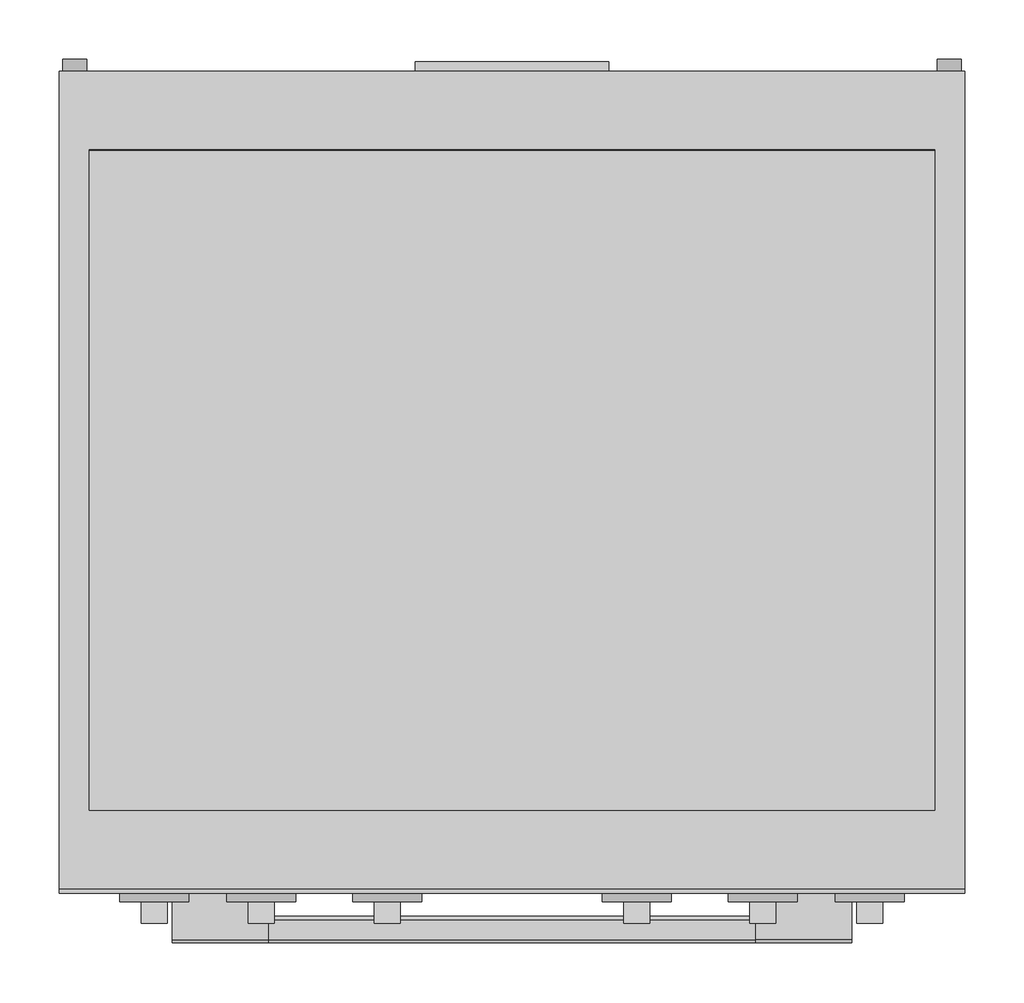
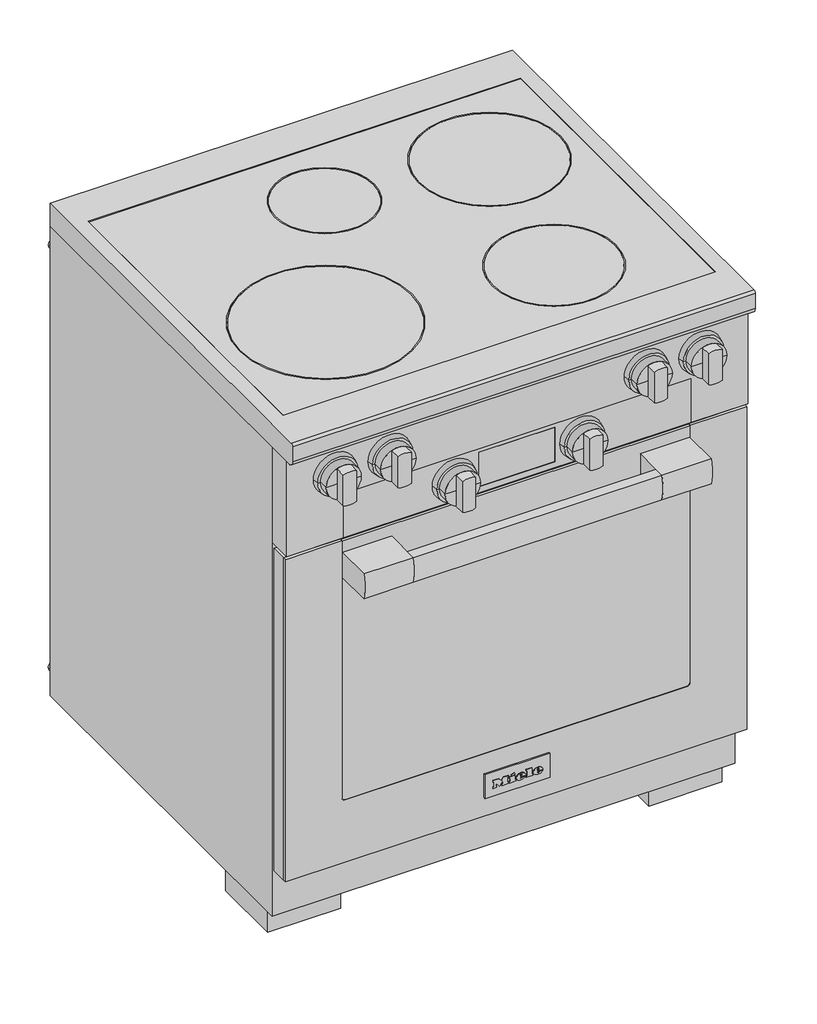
# Not in any storey: 1 proxy.
"""IFC4 building model written with IfcOpenShell, lengths in millimetres."""

from ifc_helpers import new_model, si_unit, origin, place, context, project, spatial, transform, mapped, element, save
from components import specialty_equipment_d15e6850, specialty_equipment_dd086f72

model = new_model("IFC4")

# Units and contexts
model_context = context("Model", 3, world=origin())
ifc_project = project(units=[si_unit("LENGTHUNIT", "METRE", prefix="MILLI")], contexts=[model_context])

# Site, building
site = spatial("IfcSite", under=ifc_project)
building = spatial("IfcBuilding", under=site)

# Proxy
placement = place(None, origin())
specialty_equipment_shape = specialty_equipment_d15e6850(model_context)
specialty_equipment_2_shape = specialty_equipment_dd086f72(model_context)
element("IfcBuildingElementProxy", 1, Name="12298850_USA_HR1422-3_EDST-CLST : 25142281_USA_12298850_HR1422-3_EDST-CLST", ObjectType="12298850_USA_HR1422-3_EDST-CLST : 25142281_USA_12298850_HR1422-3_EDST-CLST", at=placement, inside=building, context=model_context, shape_type="MappedRepresentation", body=[
    mapped(specialty_equipment_shape, transform((0.0, 0.0, 0.0), x_axis=(1.0, 0.0, 0.0), y_axis=(0.0, 1.0, 0.0), z_axis=(0.0, 0.0, 1.0))),
    mapped(specialty_equipment_2_shape, transform((0.0, 0.0, 0.0), x_axis=(1.0, 0.0, 0.0), y_axis=(0.0, 1.0, 0.0), z_axis=(0.0, 0.0, 1.0))),
])

save(model, "model.ifc")
